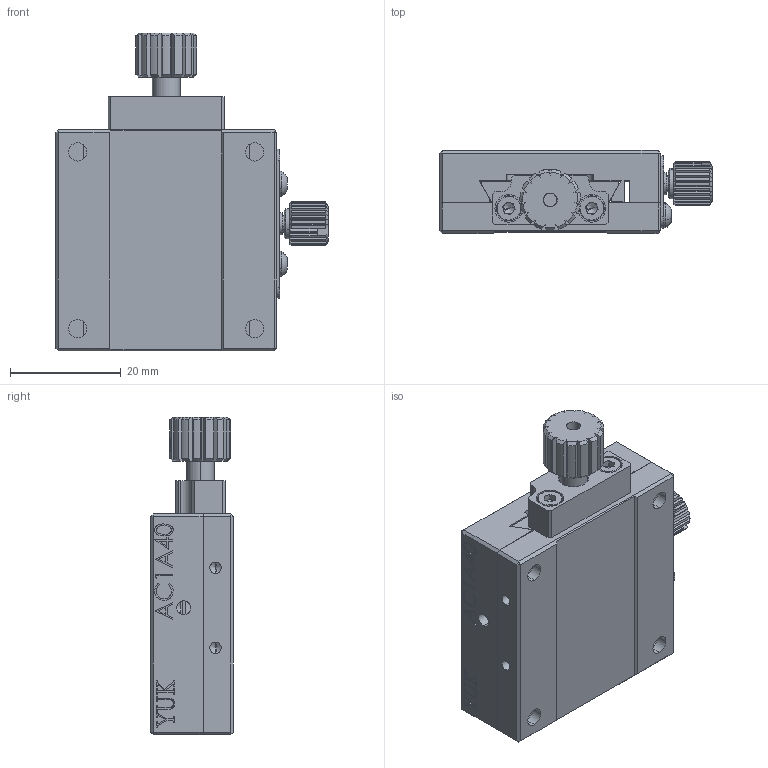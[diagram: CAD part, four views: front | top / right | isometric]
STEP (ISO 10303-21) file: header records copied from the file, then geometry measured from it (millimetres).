
FILE_DESCRIPTION (( 'STEP AP203' ), '1' );
FILE_NAME ('AC1A40(客用).STEP', '2019-05-23T02:01:18', ( '微软用户' ), ( '微软中国' ), 'SwSTEP 2.0', 'SolidWorks 2017', '' );
FILE_SCHEMA (( 'CONFIG_CONTROL_DESIGN' ));
Length unit declared in the file: millimetre
Products named in the file (14): SDSN-M3_蕼偞; AC1A60-04_蕼偞; LSB-M3x4_SCM435(化鎳); AC1A60-03_蕼偞; AC1A40(諦蚚); radial ball bearing_68_jis_JIS B 1512-1 - 193 - B,8,DE,NC,8_68; AC1A60-06_蕼偞; AC1A40-07_蕼偞; GASKET_1; AC1A40-01_蕼偞; LSA-M2.5x8_SCM435(化鎳); AC1A40-02_蕼偞; LSD-M2.5x4_SD03B004-SCM435(化鎳); AC1A60-05_蕼偞
Assembly tree (19 placements, depth 2):
  AC1A40(諦蚚)
    AC1A40-01_蕼偞
    AC1A40-02_蕼偞
    AC1A60-05_蕼偞
    AC1A60-04_蕼偞
    AC1A60-03_蕼偞
    radial ball bearing_68_jis_JIS B 1512-1 - 193 - B,8,DE,NC,8_68
    AC1A60-06_蕼偞
    AC1A40-07_蕼偞
    GASKET_1
    LSA-M2.5x8_SCM435(化鎳)  x6
    LSD-M2.5x4_SD03B004-SCM435(化鎳)  x2
    SDSN-M3_蕼偞
    LSB-M3x4_SCM435(化鎳)
Bounding box: 49.32 x 15 x 57.5 mm (x, y, z)
Volume: 21466.5 mm3; surface area: 18021.8 mm2
Topology: 19 solids, 19 shells, 1060 faces, 2876 edges, 1825 vertices
Faces by surface type: plane 458, cylinder 294, cone 141, bspline 83, torus 64, sphere 20
Entity records: 36469 total; most frequent: CARTESIAN_POINT 12813, ORIENTED_EDGE 4892, DIRECTION 4190, EDGE_CURVE 2446, VERTEX_POINT 1597, AXIS2_PLACEMENT_3D 1470, VECTOR 1250, LINE 1250
